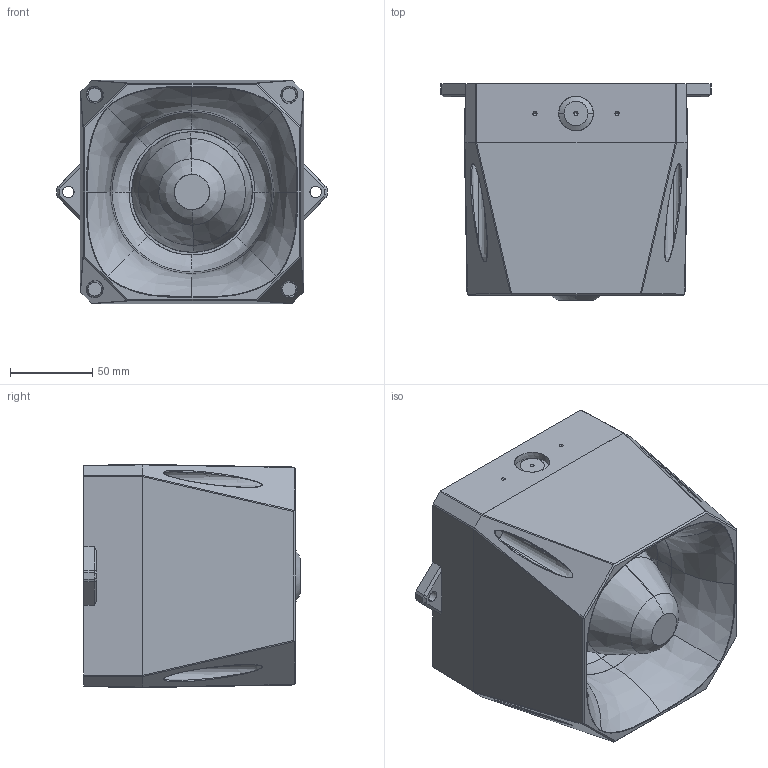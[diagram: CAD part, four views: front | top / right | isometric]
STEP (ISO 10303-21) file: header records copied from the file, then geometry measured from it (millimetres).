
FILE_DESCRIPTION(/* description */ ('Customer-3D 141'),/* implementation_level */ '2;1');
FILE_NAME(/* name */ 'C:\CEWorkDir\0050569C0EFC1EDE9396B8D52C9D60CD\in\100000015372_prt_000.step',/* time_stamp */ '2023-09-06T15:09:56+02:00',/* author */ ('JENNERT'),/* organization */ ('WERMA Signaltechnik GmbH+Co.KG'),/* preprocessor_version */ 'ST-DEVELOPER v17',/* originating_system */ 'Autodesk Inventor 2018',/* authorisation */ 'public');
FILE_SCHEMA (('AUTOMOTIVE_DESIGN { 1 0 10303 214 3 1 1 }'));
Length unit declared in the file: millimetre
Products named in the file (1): 100000015372_prt_000_1
Bounding box: 164.7 x 132 x 136 mm (x, y, z)
Surface area: 144572.1 mm2 (no closed solid volume)
Topology: 0 solids, 196 shells, 196 faces, 918 edges, 906 vertices
Faces by surface type: plane 91, bspline 62, cone 30, cylinder 8, torus 5
Entity records: 26814 total; most frequent: CARTESIAN_POINT 19780, DIRECTION 1208, VERTEX_POINT 906, EDGE_CURVE 906, ORIENTED_EDGE 906, LINE 458, VECTOR 458, AXIS2_PLACEMENT_3D 375
